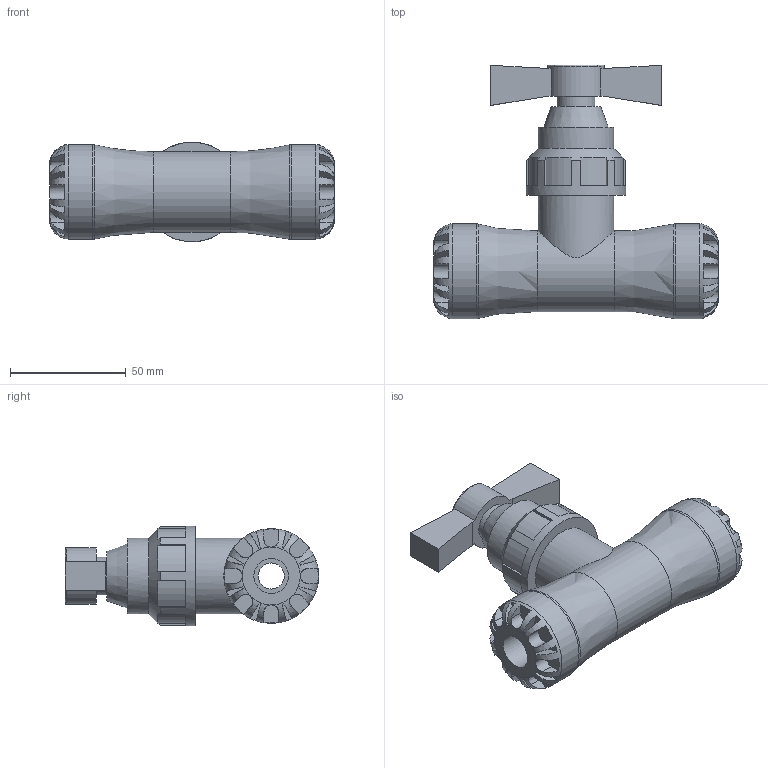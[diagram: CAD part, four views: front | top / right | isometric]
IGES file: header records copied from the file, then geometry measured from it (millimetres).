
Global section: file name: 0341C0020015.ipt; native system: Autodesk Inventor 2015; preprocessor: unknown; author: KIM; date: 20170212.115610; units: millimetre
Bounding box: 123 x 109.5 x 43.03 mm (x, y, z)
Volume: 173147.8 mm3; surface area: 36390.6 mm2
Topology: 1 solids, 1 shells, 204 faces, 544 edges, 348 vertices
Faces by surface type: plane 143, cylinder 32, revolution 27, cone 2
Full cylindrical faces by diameter (mm): 16.4 x1, 24.6 x1, 32.8 x2, 34.85 x1, 41 x2, 43.05 x1
